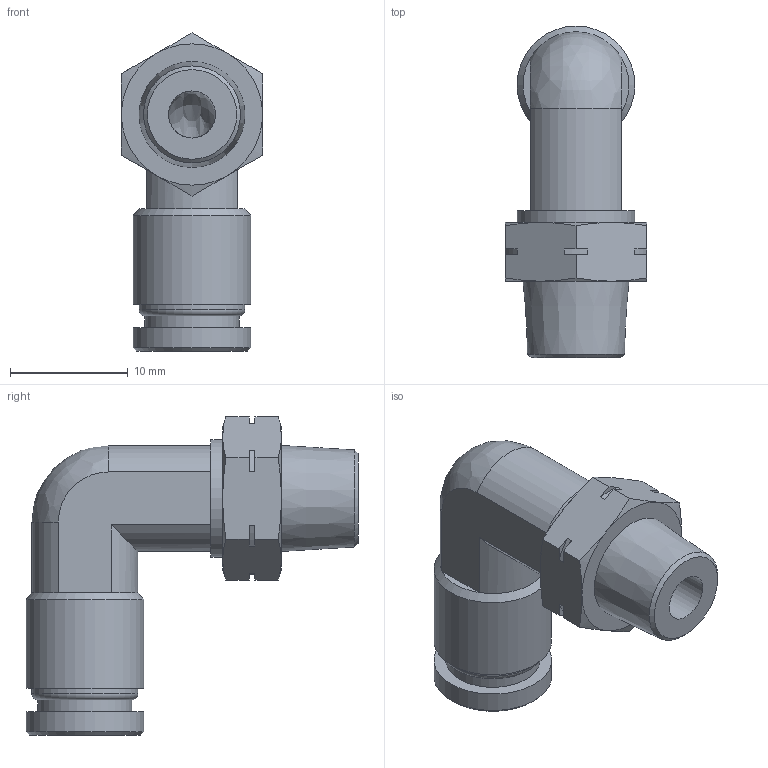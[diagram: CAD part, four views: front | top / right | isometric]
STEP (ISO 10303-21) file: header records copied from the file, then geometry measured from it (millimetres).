
FILE_DESCRIPTION(/* description */ (''),/* implementation_level */ '2;1');
FILE_NAME(/* name */ 'LXH21 0006 N1.stp',/* time_stamp */ '2026-05-01T13:29:37+02:00',/* author */ ('freju'),/* organization */ (''),/* preprocessor_version */ 'ST-DEVELOPER v20.1',/* originating_system */ 'Autodesk Inventor 2026',/* authorisation */ '');
FILE_SCHEMA (('AUTOMOTIVE_DESIGN { 1 0 10303 214 3 1 1 }'));
Length unit declared in the file: millimetre
Products named in the file (1): LXH21 0006 N1
Bounding box: 12 x 28.2 x 27.03 mm (x, y, z)
Volume: 2266.1 mm3; surface area: 2182.1 mm2
Topology: 1 solids, 1 shells, 67 faces, 161 edges, 100 vertices
Faces by surface type: plane 30, cylinder 18, cone 16, bspline 2, torus 1
Full cylindrical faces by diameter (mm): 4 x2, 6 x1, 8 x1, 9 x1, 10 x3
Entity records: 1987 total; most frequent: CARTESIAN_POINT 415, DIRECTION 330, ORIENTED_EDGE 318, EDGE_CURVE 159, AXIS2_PLACEMENT_3D 129, VERTEX_POINT 100, EDGE_LOOP 75, LINE 72
